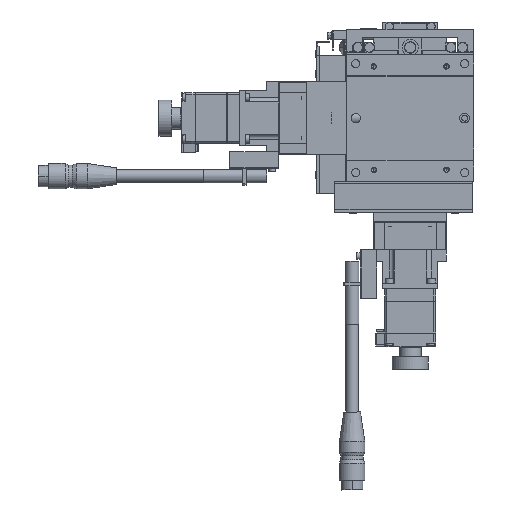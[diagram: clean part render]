
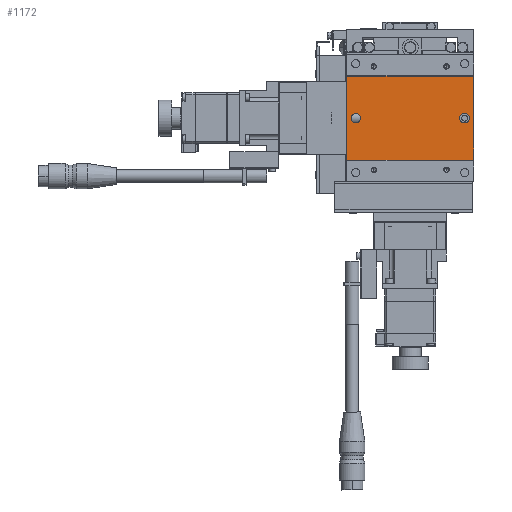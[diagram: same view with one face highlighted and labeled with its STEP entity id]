
A CAD part, front view. The second image highlights one B-rep face of the part: STEP entity #1172.
In plain terms, the highlighted planar face has unit normal (0, -1, 0).
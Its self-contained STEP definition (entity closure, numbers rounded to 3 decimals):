
#1172=ADVANCED_FACE('',(#3740,#3741,#3742),#3743,.F.);
#3740=FACE_BOUND('',#8733,.T.);
#3741=FACE_OUTER_BOUND('',#8734,.T.);
#3742=FACE_BOUND('',#8735,.T.);
#3743=PLANE('',#8736);
#8733=EDGE_LOOP('',(#15110,#15111,#15112,#15113));
#8734=EDGE_LOOP('',(#15114,#15115,#15116,#15117));
#8735=EDGE_LOOP('',(#15118,#15119,#15120));
#8736=AXIS2_PLACEMENT_3D('',#15121,#15122,#15123);
#15110=ORIENTED_EDGE('',*,*,#32423,.F.);
#15111=ORIENTED_EDGE('',*,*,#32424,.F.);
#15112=ORIENTED_EDGE('',*,*,#32425,.F.);
#15113=ORIENTED_EDGE('',*,*,#32426,.F.);
#15114=ORIENTED_EDGE('',*,*,#32412,.T.);
#15115=ORIENTED_EDGE('',*,*,#32427,.F.);
#15116=ORIENTED_EDGE('',*,*,#32428,.F.);
#15117=ORIENTED_EDGE('',*,*,#32429,.T.);
#15118=ORIENTED_EDGE('',*,*,#32309,.F.);
#15119=ORIENTED_EDGE('',*,*,#32308,.F.);
#15120=ORIENTED_EDGE('',*,*,#32430,.F.);
#15121=CARTESIAN_POINT('',(-35.,0.35,-23.15));
#15122=DIRECTION('',(0.,1.0,0.));
#15123=DIRECTION('',(-1.0,0.,0.));
#32308=EDGE_CURVE('',#38388,#38390,#38391,.F.);
#32309=EDGE_CURVE('',#38390,#38384,#38392,.F.);
#32412=EDGE_CURVE('',#38585,#38583,#38586,.T.);
#32423=EDGE_CURVE('',#38605,#38606,#38607,.F.);
#32424=EDGE_CURVE('',#38608,#38605,#38609,.T.);
#32425=EDGE_CURVE('',#38610,#38608,#38611,.F.);
#32426=EDGE_CURVE('',#38606,#38610,#38612,.T.);
#32427=EDGE_CURVE('',#38613,#38583,#38614,.T.);
#32428=EDGE_CURVE('',#38615,#38613,#38616,.T.);
#32429=EDGE_CURVE('',#38615,#38585,#38617,.T.);
#32430=EDGE_CURVE('',#38384,#38388,#38618,.F.);
#38384=VERTEX_POINT('',#48195);
#38388=VERTEX_POINT('',#48200);
#38390=VERTEX_POINT('',#48203);
#38391=CIRCLE('',#48204,2.5);
#38392=CIRCLE('',#48205,2.5);
#38583=VERTEX_POINT('',#48454);
#38585=VERTEX_POINT('',#48457);
#38586=LINE('',#48458,#48459);
#38605=VERTEX_POINT('',#48487);
#38606=VERTEX_POINT('',#48488);
#38607=CIRCLE('',#48489,2.5);
#38608=VERTEX_POINT('',#48490);
#38609=LINE('',#48491,#48492);
#38610=VERTEX_POINT('',#48493);
#38611=CIRCLE('',#48494,2.5);
#38612=LINE('',#48495,#48496);
#38613=VERTEX_POINT('',#48497);
#38614=LINE('',#48498,#48499);
#38615=VERTEX_POINT('',#48500);
#38616=LINE('',#48501,#48502);
#38617=LINE('',#48503,#48504);
#38618=CIRCLE('',#48505,2.5);
#48195=CARTESIAN_POINT('',(-27.5,0.35,0.));
#48200=CARTESIAN_POINT('',(-32.5,0.35,0.));
#48203=CARTESIAN_POINT('',(-30.,0.35,-2.5));
#48204=AXIS2_PLACEMENT_3D('',#61704,#61705,#61706);
#48205=AXIS2_PLACEMENT_3D('',#61707,#61708,#61709);
#48454=CARTESIAN_POINT('',(35.,0.35,23.15));
#48457=CARTESIAN_POINT('',(35.,0.35,-23.15));
#48458=CARTESIAN_POINT('',(35.,0.35,-23.15));
#48459=VECTOR('',#61898,1000.0);
#48487=CARTESIAN_POINT('',(30.25,0.35,-2.5));
#48488=CARTESIAN_POINT('',(30.25,0.35,2.5));
#48489=AXIS2_PLACEMENT_3D('',#61911,#61912,#61913);
#48490=CARTESIAN_POINT('',(29.75,0.35,-2.5));
#48491=CARTESIAN_POINT('',(-35.,0.35,-2.5));
#48492=VECTOR('',#61914,1000.0);
#48493=CARTESIAN_POINT('',(29.75,0.35,2.5));
#48494=AXIS2_PLACEMENT_3D('',#61915,#61916,#61917);
#48495=CARTESIAN_POINT('',(-35.,0.35,2.5));
#48496=VECTOR('',#61918,1000.0);
#48497=CARTESIAN_POINT('',(-35.,0.35,23.15));
#48498=CARTESIAN_POINT('',(-35.,0.35,23.15));
#48499=VECTOR('',#61919,1000.0);
#48500=CARTESIAN_POINT('',(-35.,0.35,-23.15));
#48501=CARTESIAN_POINT('',(-35.,0.35,-23.15));
#48502=VECTOR('',#61920,1000.0);
#48503=CARTESIAN_POINT('',(-35.,0.35,-23.15));
#48504=VECTOR('',#61921,1000.0);
#48505=AXIS2_PLACEMENT_3D('',#61922,#61923,#61924);
#61704=CARTESIAN_POINT('',(-30.0,0.35,0.));
#61705=DIRECTION('',(0.,1.0,0.));
#61706=DIRECTION('',(0.,0.,-1.0));
#61707=CARTESIAN_POINT('',(-30.0,0.35,0.));
#61708=DIRECTION('',(0.,1.0,0.));
#61709=DIRECTION('',(0.,0.,-1.0));
#61898=DIRECTION('',(0.,0.,1.0));
#61911=CARTESIAN_POINT('',(30.25,0.35,0.));
#61912=DIRECTION('',(0.,1.0,0.));
#61913=DIRECTION('',(0.,0.,-1.0));
#61914=DIRECTION('',(1.0,0.,0.));
#61915=CARTESIAN_POINT('',(29.75,0.35,0.));
#61916=DIRECTION('',(0.,1.0,0.));
#61917=DIRECTION('',(0.,0.,-1.0));
#61918=DIRECTION('',(-1.0,0.,0.));
#61919=DIRECTION('',(1.0,0.,0.));
#61920=DIRECTION('',(0.,0.,1.0));
#61921=DIRECTION('',(1.0,0.,0.));
#61922=CARTESIAN_POINT('',(-30.0,0.35,0.));
#61923=DIRECTION('',(0.,1.0,0.));
#61924=DIRECTION('',(0.,0.,-1.0));
